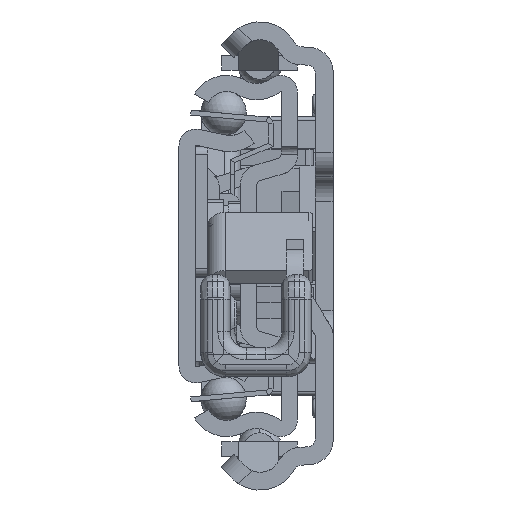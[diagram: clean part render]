
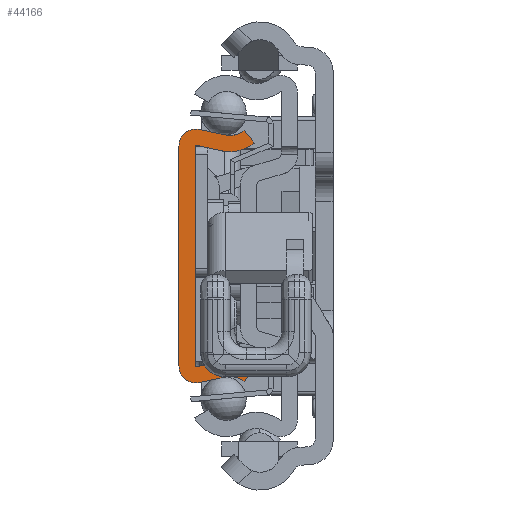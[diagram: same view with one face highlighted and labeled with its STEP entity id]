
A CAD part, left-side view. The second image highlights one B-rep face of the part: STEP entity #44166.
In plain terms, the highlighted planar face has unit normal (-1, 0, 0).
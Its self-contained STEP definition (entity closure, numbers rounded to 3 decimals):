
#39582=CARTESIAN_POINT('',(0.,-6.29,-17.65));
#39583=DIRECTION('',(-1.,0.,0.));
#39584=DIRECTION('',(0.,-0.629,0.778));
#39585=AXIS2_PLACEMENT_3D('',#39582,#39583,#39584);
#39587=DIRECTION('',(0.,0.977,-0.213));
#39588=VECTOR('',#39587,3.218);
#39589=CARTESIAN_POINT('',(0.,-5.692,-14.915));
#39590=LINE('',#39589,#39588);
#39591=CARTESIAN_POINT('',(0.,-2.1,-13.55));
#39592=DIRECTION('',(1.,0.,0.));
#39593=DIRECTION('',(0.,-0.213,-0.977));
#39594=AXIS2_PLACEMENT_3D('',#39591,#39592,#39593);
#39596=DIRECTION('',(0.,0.,1.));
#39597=VECTOR('',#39596,27.1);
#39598=CARTESIAN_POINT('',(0.,0.,-13.55));
#39599=LINE('',#39598,#39597);
#39600=CARTESIAN_POINT('',(0.,-2.1,13.55));
#39601=DIRECTION('',(1.,0.,0.));
#39602=DIRECTION('',(0.,1.,0.));
#39603=AXIS2_PLACEMENT_3D('',#39600,#39601,#39602);
#39605=DIRECTION('',(0.,-0.977,-0.213));
#39606=VECTOR('',#39605,3.218);
#39607=CARTESIAN_POINT('',(0.,-2.548,15.602));
#39608=LINE('',#39607,#39606);
#39609=CARTESIAN_POINT('',(0.,-6.29,17.65));
#39610=DIRECTION('',(-1.,0.,0.));
#39611=DIRECTION('',(0.,0.213,-0.977));
#39612=AXIS2_PLACEMENT_3D('',#39609,#39610,#39611);
#39614=DIRECTION('',(0.,-0.629,-0.778));
#39615=VECTOR('',#39614,2.);
#39616=CARTESIAN_POINT('',(0.,-8.05,15.472));
#39617=LINE('',#39616,#39615);
#39618=CARTESIAN_POINT('',(0.,-6.29,17.65));
#39619=DIRECTION('',(1.,0.,0.));
#39620=DIRECTION('',(0.,-0.629,-0.778));
#39621=AXIS2_PLACEMENT_3D('',#39618,#39619,#39620);
#39623=DIRECTION('',(0.,0.977,0.213));
#39624=VECTOR('',#39623,3.218);
#39625=CARTESIAN_POINT('',(0.,-5.265,12.961));
#39626=LINE('',#39625,#39624);
#39627=CARTESIAN_POINT('',(0.,-2.1,13.55));
#39628=DIRECTION('',(-1.,0.,0.));
#39629=DIRECTION('',(0.,-0.213,0.977));
#39630=AXIS2_PLACEMENT_3D('',#39627,#39628,#39629);
#39632=DIRECTION('',(0.,0.,-1.));
#39633=VECTOR('',#39632,27.1);
#39634=CARTESIAN_POINT('',(0.,-2.,13.55));
#39635=LINE('',#39634,#39633);
#39636=CARTESIAN_POINT('',(0.,-2.1,-13.55));
#39637=DIRECTION('',(-1.,0.,0.));
#39638=DIRECTION('',(0.,1.,0.));
#39639=AXIS2_PLACEMENT_3D('',#39636,#39637,#39638);
#39641=DIRECTION('',(0.,-0.977,0.213));
#39642=VECTOR('',#39641,3.218);
#39643=CARTESIAN_POINT('',(0.,-2.121,-13.648));
#39644=LINE('',#39643,#39642);
#39645=CARTESIAN_POINT('',(0.,-6.29,-17.65));
#39646=DIRECTION('',(1.,0.,0.));
#39647=DIRECTION('',(0.,0.213,0.977));
#39648=AXIS2_PLACEMENT_3D('',#39645,#39646,#39647);
#39650=DIRECTION('',(0.,0.629,-0.778));
#39651=VECTOR('',#39650,2.);
#39652=CARTESIAN_POINT('',(0.,-9.307,-13.917));
#39653=LINE('',#39652,#39651);
#43297=CARTESIAN_POINT('',(0.,-8.05,-15.472));
#43298=CARTESIAN_POINT('',(0.,-5.692,-14.915));
#43299=VERTEX_POINT('',#43297);
#43300=VERTEX_POINT('',#43298);
#43301=CARTESIAN_POINT('',(0.,-2.548,-15.602));
#43302=VERTEX_POINT('',#43301);
#43303=CARTESIAN_POINT('',(0.,0.,-13.55));
#43304=VERTEX_POINT('',#43303);
#43305=CARTESIAN_POINT('',(0.,0.,13.55));
#43306=VERTEX_POINT('',#43305);
#43307=CARTESIAN_POINT('',(0.,-2.548,15.602));
#43308=VERTEX_POINT('',#43307);
#43309=CARTESIAN_POINT('',(0.,-5.692,14.915));
#43310=VERTEX_POINT('',#43309);
#43311=CARTESIAN_POINT('',(0.,-8.05,15.472));
#43312=VERTEX_POINT('',#43311);
#43313=CARTESIAN_POINT('',(0.,-9.307,13.917));
#43314=VERTEX_POINT('',#43313);
#43315=CARTESIAN_POINT('',(0.,-5.265,12.961));
#43316=VERTEX_POINT('',#43315);
#43317=CARTESIAN_POINT('',(0.,-2.121,13.648));
#43318=VERTEX_POINT('',#43317);
#43319=CARTESIAN_POINT('',(0.,-2.,13.55));
#43320=VERTEX_POINT('',#43319);
#43321=CARTESIAN_POINT('',(0.,-2.,-13.55));
#43322=VERTEX_POINT('',#43321);
#43323=CARTESIAN_POINT('',(0.,-2.121,-13.648));
#43324=VERTEX_POINT('',#43323);
#43325=CARTESIAN_POINT('',(0.,-5.265,-12.961));
#43326=VERTEX_POINT('',#43325);
#43327=CARTESIAN_POINT('',(0.,-9.307,-13.917));
#43328=VERTEX_POINT('',#43327);
#44127=CARTESIAN_POINT('',(0.,0.,0.));
#44128=DIRECTION('',(1.,0.,0.));
#44129=DIRECTION('',(0.,-1.,0.));
#44130=AXIS2_PLACEMENT_3D('',#44127,#44128,#44129);
#44131=PLANE('',#44130);
#44133=ORIENTED_EDGE('',*,*,#44132,.T.);
#44135=ORIENTED_EDGE('',*,*,#44134,.T.);
#44137=ORIENTED_EDGE('',*,*,#44136,.T.);
#44139=ORIENTED_EDGE('',*,*,#44138,.T.);
#44141=ORIENTED_EDGE('',*,*,#44140,.T.);
#44143=ORIENTED_EDGE('',*,*,#44142,.T.);
#44145=ORIENTED_EDGE('',*,*,#44144,.T.);
#44147=ORIENTED_EDGE('',*,*,#44146,.T.);
#44149=ORIENTED_EDGE('',*,*,#44148,.T.);
#44151=ORIENTED_EDGE('',*,*,#44150,.T.);
#44153=ORIENTED_EDGE('',*,*,#44152,.T.);
#44155=ORIENTED_EDGE('',*,*,#44154,.T.);
#44157=ORIENTED_EDGE('',*,*,#44156,.T.);
#44159=ORIENTED_EDGE('',*,*,#44158,.T.);
#44161=ORIENTED_EDGE('',*,*,#44160,.T.);
#44163=ORIENTED_EDGE('',*,*,#44162,.T.);
#44164=EDGE_LOOP('',(#44133,#44135,#44137,#44139,#44141,#44143,#44145,#44147,
#44149,#44151,#44153,#44155,#44157,#44159,#44161,#44163));
#44165=FACE_OUTER_BOUND('',#44164,.F.);
#39586=CIRCLE('',#39585,2.8);
#39595=CIRCLE('',#39594,2.1);
#39604=CIRCLE('',#39603,2.1);
#39613=CIRCLE('',#39612,2.8);
#39622=CIRCLE('',#39621,4.8);
#39631=CIRCLE('',#39630,0.1);
#39640=CIRCLE('',#39639,0.1);
#39649=CIRCLE('',#39648,4.8);
#44132=EDGE_CURVE('',#43299,#43300,#39586,.T.);
#44134=EDGE_CURVE('',#43300,#43302,#39590,.T.);
#44136=EDGE_CURVE('',#43302,#43304,#39595,.T.);
#44138=EDGE_CURVE('',#43304,#43306,#39599,.T.);
#44140=EDGE_CURVE('',#43306,#43308,#39604,.T.);
#44142=EDGE_CURVE('',#43308,#43310,#39608,.T.);
#44144=EDGE_CURVE('',#43310,#43312,#39613,.T.);
#44146=EDGE_CURVE('',#43312,#43314,#39617,.T.);
#44148=EDGE_CURVE('',#43314,#43316,#39622,.T.);
#44150=EDGE_CURVE('',#43316,#43318,#39626,.T.);
#44152=EDGE_CURVE('',#43318,#43320,#39631,.T.);
#44154=EDGE_CURVE('',#43320,#43322,#39635,.T.);
#44156=EDGE_CURVE('',#43322,#43324,#39640,.T.);
#44158=EDGE_CURVE('',#43324,#43326,#39644,.T.);
#44160=EDGE_CURVE('',#43326,#43328,#39649,.T.);
#44162=EDGE_CURVE('',#43328,#43299,#39653,.T.);
#44166=ADVANCED_FACE('',(#44165),#44131,.F.);
